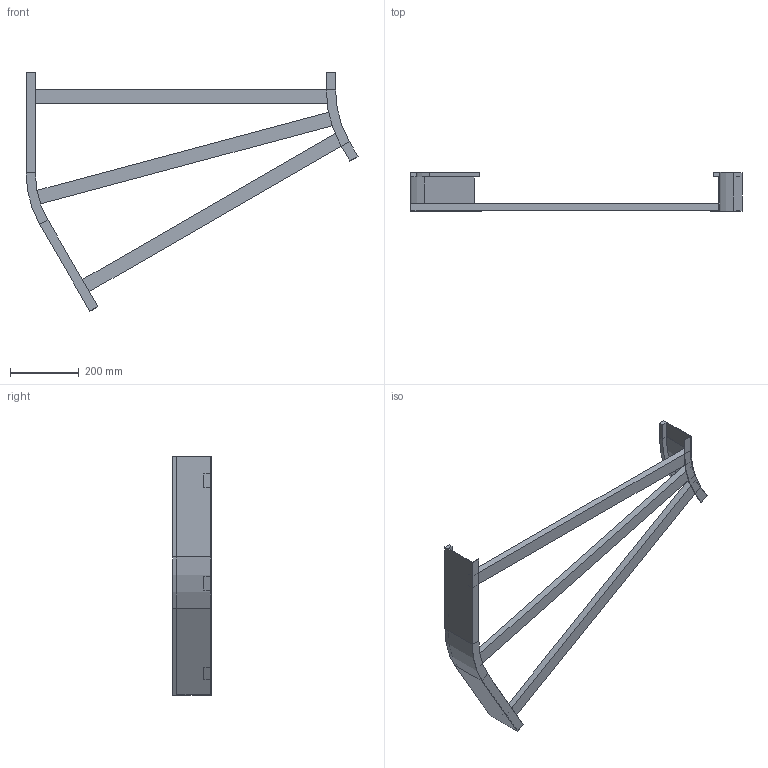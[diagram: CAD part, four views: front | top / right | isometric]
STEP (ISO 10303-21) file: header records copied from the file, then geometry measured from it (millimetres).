
FILE_DESCRIPTION (( 'STEP AP214' ), '1' );
FILE_NAME ('B2_12B3J900.step', '2025-02-21T15:09:50', ( '' ), ( '' ), 'SwSTEP 2.0', 'SolidWorks 2023', '' );
FILE_SCHEMA (( 'AUTOMOTIVE_DESIGN' ));
Length unit declared in the file: millimetre
Products named in the file (5): B2_LONGH.ESTERNO 30°_H112.5_R300+900; TRAVERSINO_900; B2_12B3J900; B2_LONGH.INTERNO 30°_H112.5_R300; TRAVERSINO_L926
Assembly tree (5 placements, depth 2):
  B2_12B3J900
    B2_LONGH.INTERNO 30°_H112.5_R300
    B2_LONGH.ESTERNO 30°_H112.5_R300+900
    TRAVERSINO_900  x2
    TRAVERSINO_L926
Bounding box: 965.19 x 112.5 x 693.3 mm (x, y, z)
Volume: 2666930.5 mm3; surface area: 645507.5 mm2
Topology: 5 solids, 5 shells, 70 faces, 148 edges, 88 vertices
Faces by surface type: plane 62, cylinder 8
Entity records: 1822 total; most frequent: DIRECTION 296, CARTESIAN_POINT 288, ORIENTED_EDGE 272, EDGE_CURVE 136, LINE 120, VECTOR 120, AXIS2_PLACEMENT_3D 88, VERTEX_POINT 80
